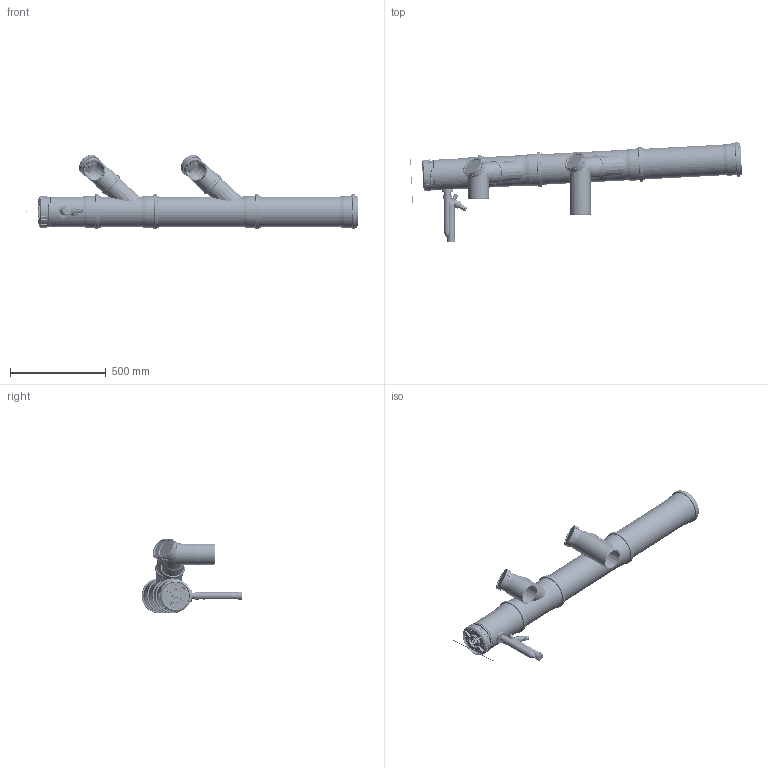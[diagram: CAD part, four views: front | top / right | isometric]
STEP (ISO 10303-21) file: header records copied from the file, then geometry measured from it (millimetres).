
FILE_DESCRIPTION((''),'2;1');
FILE_NAME('20-5511113200_ASM','2022-02-18T10:51:33',('ctgas'),('Centrotherm'),'CREO PARAMETRIC BY PTC INC, 2020281','CREO PARAMETRIC BY PTC INC, 2020281','');
FILE_SCHEMA(('AP242_MANAGED_MODEL_BASED_3D_ENGINEERING_MIM_LF { 1 0 10303 442 1 1 4 }'));
Length unit declared in the file: millimetre
Products named in the file (31): 20-1100001816_1000_AF0; 20-1100004791_AF0; 20-1100008865_ASM; 34014510; 20-1100008866_ASM; 20-1100001816_0300_AF0; 20-1100004791_AF1; 20-1100001375_ASM; 20-1100000860_ASM; 20-1100001816_0500; 20-1100002284_0500_ASM; 20-1100000544; 20-0002073000; 20-0034033000; 20-0034013010; 20-1100002663_ASM; 20-1100000543; 20-1100002662_ASM; 20-1100001816_0250_AF0; 20-1100003803_GERADE; 20-0002700022; 20-1100001457_ASM; 45110002; 20-1100003804; 20-1100002691; 20-1100003808_ASM; 20-1100002833_ASM; 45600054; 45600015; 80600024_ASM; 20-5511113200_ASM
Assembly tree (36 placements, depth 4):
  20-5511113200_ASM
    20-1100008866_ASM
      20-1100008865_ASM
        20-1100001816_1000_AF0
        20-1100004791_AF0
      34014510
    20-1100000860_ASM
      20-1100001375_ASM
        20-1100001816_0300_AF0
        20-1100004791_AF1
      34014510
    20-1100002284_0500_ASM
      20-1100001816_0500
      34014510
    20-1100002663_ASM
      20-1100000544
      20-0002073000
      20-0034033000
      20-0034013010
    20-1100002662_ASM
      20-1100000543
      20-0002073000
      20-0034033000
      20-0034013010
    20-1100002833_ASM
      20-1100001457_ASM
        20-1100001816_0250_AF0
        20-1100003803_GERADE
        20-0002700022
      34014510
      45110002
      20-1100003808_ASM
        20-1100003804
        20-1100002691
    80600024_ASM
      45600054
      45600015
Bounding box: 1733.45 x 525.3 x 389.9 mm (x, y, z)
Volume: 4613565 mm3; surface area: 3026662.1 mm2
Topology: 25 solids, 33 shells, 9194 faces, 24473 edges, 15692 vertices
Faces by surface type: plane 6688, cylinder 889, bspline 568, cone 448, torus 408, sphere 172, extrusion 21
Entity records: 325269 total; most frequent: CARTESIAN_POINT 90825, ORIENTED_EDGE 46732, DIRECTION 40782, EDGE_CURVE 23398, VECTOR 17572, LINE 17551, VERTEX_POINT 15061, AXIS2_PLACEMENT_3D 11605
